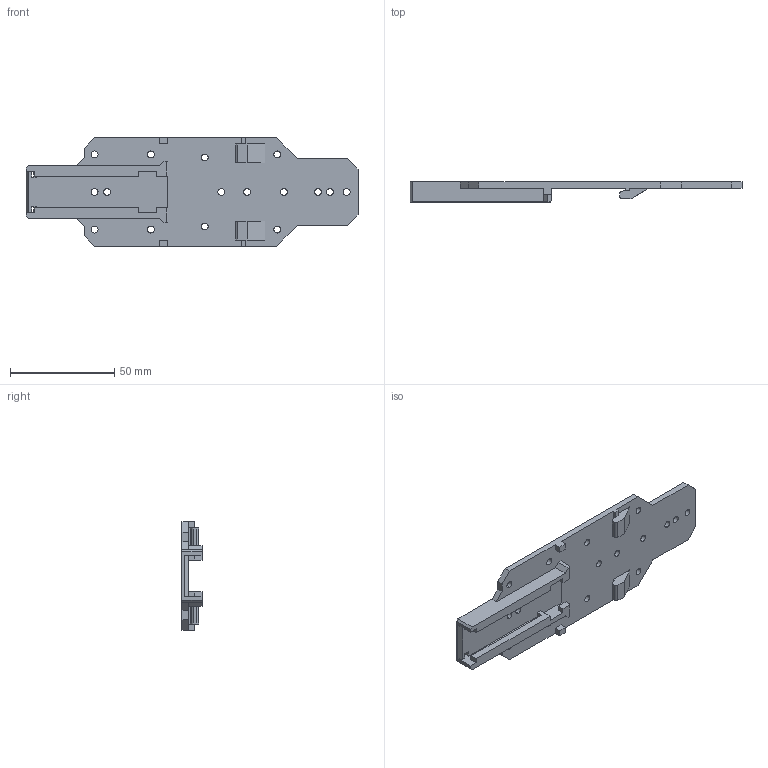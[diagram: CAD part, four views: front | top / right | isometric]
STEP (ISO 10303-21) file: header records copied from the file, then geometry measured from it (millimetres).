
FILE_DESCRIPTION(('SolidDesigner STEP Export'),'2;1');
FILE_NAME('UTA_159.stp','2007-10-29T 9:43:45',(''),(''),'OneSpace Designer STEP processor for AP214 (Solid Model)','OneSpace Designer 14.50 18-Oct-2006 (C) CoCreate Software GmbH','');
FILE_SCHEMA(('AUTOMOTIVE_DESIGN { 1 0 10303 214 1 1 1 1 }'));
Length unit declared in the file: millimetre
Products named in the file (2): UTA_159_PLATTE_H.Select__00426554
Assembly tree (1 placements, depth 2):
  UTA_159_PLATTE_H.Select__00426554
    UTA_159_PLATTE_H.Select__00426554
Bounding box: 159 x 9.6 x 52 mm (x, y, z)
Volume: 24186.9 mm3; surface area: 17903.6 mm2
Topology: 1 solids, 1 shells, 153 faces, 441 edges, 288 vertices
Faces by surface type: plane 85, cylinder 36, cone 32
Entity records: 5837 total; most frequent: ORIENTED_EDGE 882, CARTESIAN_POINT 780, DIRECTION 668, EDGE_CURVE 441, VECTOR 316, LINE 316, VERTEX_POINT 288, EDGE_LOOP 187
